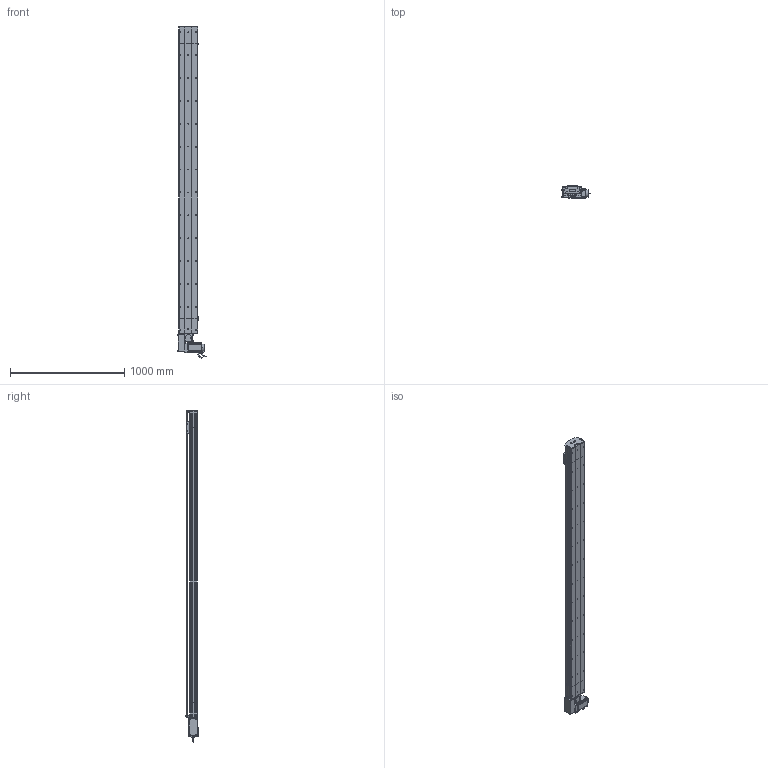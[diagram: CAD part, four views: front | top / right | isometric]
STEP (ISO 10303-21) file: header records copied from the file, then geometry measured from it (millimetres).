
FILE_DESCRIPTION (( 'STEP AP214' ), '1' );
FILE_NAME ('D17 TBN RH S2400.STEP', '2010-06-30T11:48:10', ( 'Christophe Gaillard' ), ( 'SGA' ), 'SwSTEP 2.0', 'SolidWorks 2010', '' );
FILE_SCHEMA (( 'AUTOMOTIVE_DESIGN' ));
Length unit declared in the file: millimetre
Products named in the file (40): vis M5 L16_Default; Vis M5 L16-2_Default; Plaque racord D17_Default; cache arbre D17_Default; Tail D17B_Default; Arbre+rail head D17B; cache D17_Default; corp D17B 2400_Default; guide D17; course 2400 D17B_Default; Couroie+ rail D17 Course 2400 ; corpl tail D17B_Default; tete d''axe poulie D17B; couvercle D17B_Default; Rail D17B; plaque de  bout tail D17B_Default; vis M5 L8 90°_Default; poulie tail_Default; Couroie tail D17B_Default; poulie head_Default; vis M5 L12_Default; couroie head D17_Default; Moteur motionking 90BLDC125A-640; avant 90BLDC125A-640; Renvoi RH_Default; corps 90BLDC125A-640; vis M5 L25_Default; chariot D17 TBN; Chariot D17 TBN; vis M5 L5_Default; D17 TBN RH S2400; couvercle D17B course L2400_Default; Head RH D17B_Default; corpl head D17 _Default; codeur 90BLDC125-640; Conecteur2_Default; couvercle D17B head_Default; Conecteur_Default; vis M5 L70_Default; plaque de  bout head D17B RH_Default
Assembly tree (66 placements, depth 4):
  D17 TBN RH S2400
    course 2400 D17B_Default
      corp D17B 2400_Default
      Couroie+ rail D17 Course 2400 
      couvercle D17B course L2400_Default
    Head RH D17B_Default
      Arbre+rail head D17B
      poulie head_Default
      vis M5 L5_Default  x4
      vis M5 L70_Default  x4
      Vis M5 L16-2_Default  x4
      vis M5 L12_Default  x8
      couroie head D17_Default
      corpl head D17 _Default
      Renvoi RH_Default
      couvercle D17B head_Default
      cache D17_Default  x2
      plaque de  bout head D17B RH_Default
      vis M5 L16_Default  x2
      Moteur motionking 90BLDC125A-640
        Conecteur2_Default
        avant 90BLDC125A-640
        Conecteur_Default
        corps 90BLDC125A-640
        codeur 90BLDC125-640
      vis M5 L25_Default  x2
      cache arbre D17_Default
      Plaque racord D17_Default
    Tail D17B_Default
      tete d''axe poulie D17B
      vis M5 L8 90°_Default  x2
      plaque de  bout tail D17B_Default
      poulie tail_Default
      couvercle D17B_Default
      vis M5 L12_Default  x4
      vis M5 L25_Default  x2
      Couroie tail D17B_Default
      Rail D17B
      corpl tail D17B_Default
    chariot D17 TBN
      guide D17  x2
      Chariot D17 TBN
Bounding box: 245.2 x 105.65 x 2900.95 mm (x, y, z)
Volume: 16214706.8 mm3; surface area: 4705840.5 mm2
Topology: 89 solids, 89 shells, 2615 faces, 6693 edges, 4314 vertices
Faces by surface type: plane 1533, cylinder 785, bspline 136, cone 80, torus 77, sphere 4
Entity records: 84899 total; most frequent: CARTESIAN_POINT 25251, ORIENTED_EDGE 10558, DIRECTION 9972, EDGE_CURVE 5279, VECTOR 3474, LINE 3474, VERTEX_POINT 3458, AXIS2_PLACEMENT_3D 3249
